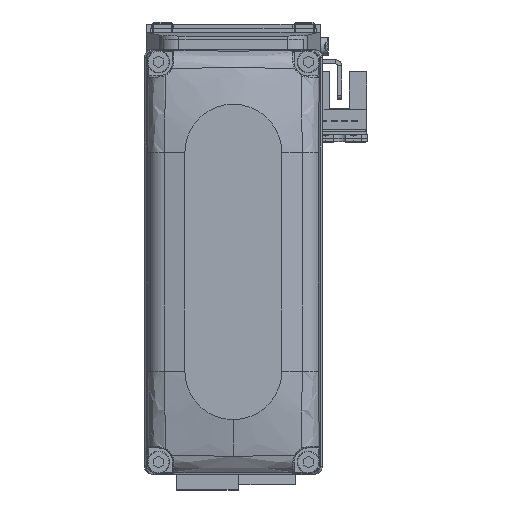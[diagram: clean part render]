
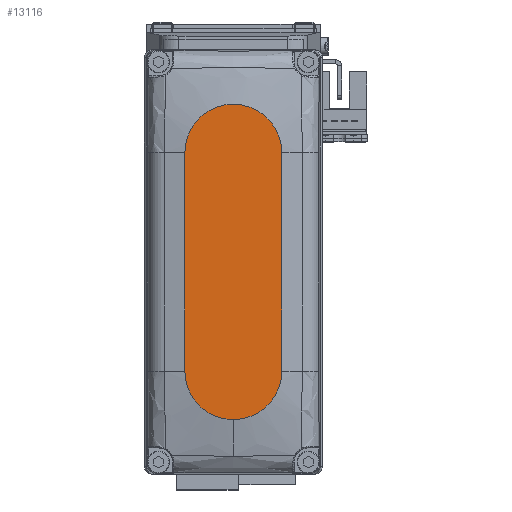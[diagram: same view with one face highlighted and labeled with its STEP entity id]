
A CAD part, top view. The second image highlights one B-rep face of the part: STEP entity #13116.
In plain terms, the highlighted planar face has unit normal (0, 0, 1).
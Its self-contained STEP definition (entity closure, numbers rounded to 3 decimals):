
#249 = DIRECTION ( 'NONE',  ( 1., 0., 0. ) ) ;
#766 = DIRECTION ( 'NONE',  ( 0., 0., 1. ) ) ;
#1715 = DIRECTION ( 'NONE',  ( 1., 0., 0. ) ) ;
#3531 = CARTESIAN_POINT ( 'NONE',  ( -27., 12., 25. ) ) ;
#4018 = AXIS2_PLACEMENT_3D ( 'NONE', #17026, #29299, #1715 ) ;
#5997 = DIRECTION ( 'NONE',  ( 1., 0., 0. ) ) ;
#6559 = VERTEX_POINT ( 'NONE', #33554 ) ;
#7209 = VECTOR ( 'NONE', #15830, 1000. ) ;
#7323 = LINE ( 'NONE', #19614, #29356 ) ;
#7528 = EDGE_CURVE ( 'NONE', #36985, #25262, #27588, .T. ) ;
#8680 = CIRCLE ( 'NONE', #31207, 12. ) ;
#9016 = PLANE ( 'NONE',  #26563 ) ;
#9920 = CARTESIAN_POINT ( 'NONE',  ( -27., -12., 25. ) ) ;
#10237 = AXIS2_PLACEMENT_3D ( 'NONE', #31393, #766, #13044 ) ;
#11008 = ORIENTED_EDGE ( 'NONE', *, *, #39645, .T. ) ;
#11844 = EDGE_CURVE ( 'NONE', #6559, #36985, #31116, .T. ) ;
#12434 = CARTESIAN_POINT ( 'NONE',  ( 27., -12., 25. ) ) ;
#13044 = DIRECTION ( 'NONE',  ( 1., 0., 0. ) ) ;
#13116 = ADVANCED_FACE ( 'NONE', ( #36663 ), #9016, .T. ) ;
#15552 = CARTESIAN_POINT ( 'NONE',  ( 27., 0., 25. ) ) ;
#15830 = DIRECTION ( 'NONE',  ( -1., 0., 0. ) ) ;
#16223 = CARTESIAN_POINT ( 'NONE',  ( 39., 0., 25. ) ) ;
#17026 = CARTESIAN_POINT ( 'NONE',  ( 27., 0., 25. ) ) ;
#18172 = EDGE_CURVE ( 'NONE', #28759, #32720, #8680, .T. ) ;
#19614 = CARTESIAN_POINT ( 'NONE',  ( -27., -12., 25. ) ) ;
#20373 = EDGE_CURVE ( 'NONE', #25262, #28759, #7323, .T. ) ;
#20870 = EDGE_LOOP ( 'NONE', ( #32063, #25100, #38964, #32881, #11008 ) ) ;
#21311 = CARTESIAN_POINT ( 'NONE',  ( 0., 0., 25. ) ) ;
#21379 = CIRCLE ( 'NONE', #4018, 12. ) ;
#25100 = ORIENTED_EDGE ( 'NONE', *, *, #7528, .T. ) ;
#25262 = VERTEX_POINT ( 'NONE', #9920 ) ;
#26563 = AXIS2_PLACEMENT_3D ( 'NONE', #21311, #33607, #5997 ) ;
#27588 = CIRCLE ( 'NONE', #10237, 12. ) ;
#27820 = DIRECTION ( 'NONE',  ( 0., 0., 1. ) ) ;
#28759 = VERTEX_POINT ( 'NONE', #12434 ) ;
#29299 = DIRECTION ( 'NONE',  ( 0., 0., 1. ) ) ;
#29356 = VECTOR ( 'NONE', #31910, 1000. ) ;
#31116 = LINE ( 'NONE', #3531, #7209 ) ;
#31207 = AXIS2_PLACEMENT_3D ( 'NONE', #15552, #27820, #249 ) ;
#31393 = CARTESIAN_POINT ( 'NONE',  ( -27., 0., 25. ) ) ;
#31910 = DIRECTION ( 'NONE',  ( 1., 0., 0. ) ) ;
#32063 = ORIENTED_EDGE ( 'NONE', *, *, #11844, .T. ) ;
#32720 = VERTEX_POINT ( 'NONE', #16223 ) ;
#32881 = ORIENTED_EDGE ( 'NONE', *, *, #18172, .T. ) ;
#33554 = CARTESIAN_POINT ( 'NONE',  ( 27., 12., 25. ) ) ;
#33607 = DIRECTION ( 'NONE',  ( 0., 0., 1. ) ) ;
#35899 = CARTESIAN_POINT ( 'NONE',  ( -27., 12., 25. ) ) ;
#36663 = FACE_OUTER_BOUND ( 'NONE', #20870, .T. ) ;
#36985 = VERTEX_POINT ( 'NONE', #35899 ) ;
#38964 = ORIENTED_EDGE ( 'NONE', *, *, #20373, .T. ) ;
#39645 = EDGE_CURVE ( 'NONE', #32720, #6559, #21379, .T. ) ;
